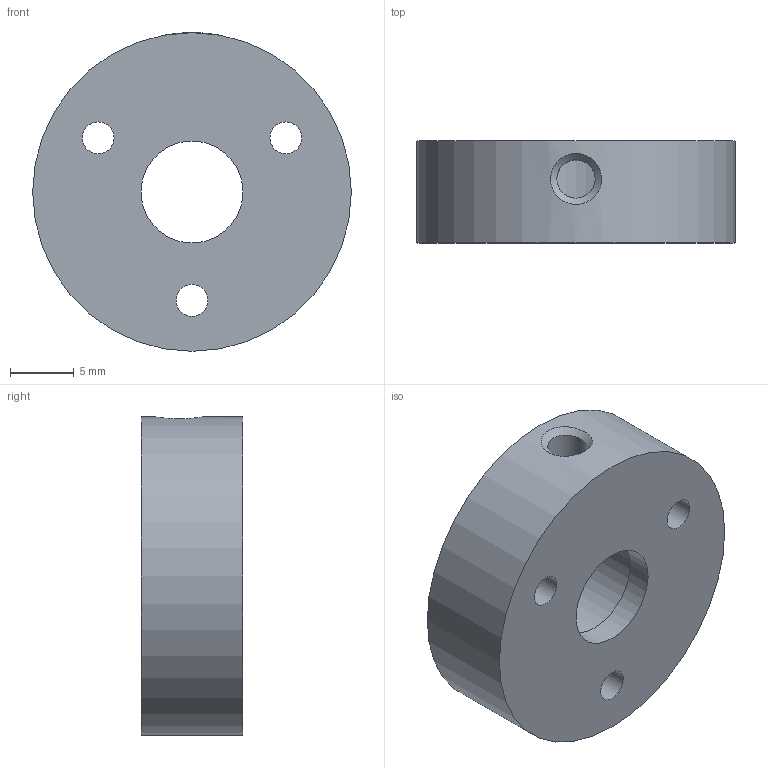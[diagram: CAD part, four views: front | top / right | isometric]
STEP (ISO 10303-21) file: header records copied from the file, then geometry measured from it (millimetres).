
FILE_DESCRIPTION(/* description */ ('Unknown'),/* implementation_level */ '2;1');
FILE_NAME(/* name */ 'Disk lapka',/* time_stamp */ '2020-08-15T14:34:06+03:00',/* author */ ('Unknown'),/* organization */ ('Unknown'),/* preprocessor_version */ 'ST-DEVELOPER v16.7',/* originating_system */ 'Solid Edge',/* authorisation */ 'Unknown');
FILE_SCHEMA (('AUTOMOTIVE_DESIGN {1 0 10303 214 3 1 1}'));
Length unit declared in the file: millimetre
Products named in the file (1): Disk lapka
Bounding box: 25 x 8 x 25 mm (x, y, z)
Volume: 3268.7 mm3; surface area: 1947.7 mm2
Topology: 1 solids, 1 shells, 11 faces, 24 edges, 16 vertices
Faces by surface type: cylinder 7, plane 3, bspline 1
Full cylindrical faces by diameter (mm): 2.5 x3, 3 x1, 8 x1, 9 x1, 25 x1
Entity records: 473 total; most frequent: CARTESIAN_POINT 142, DIRECTION 46, ORIENTED_EDGE 30, EDGE_LOOP 30, FACE_BOUND 30, AXIS2_PLACEMENT_3D 23, EDGE_CURVE 15, VERTEX_POINT 15
